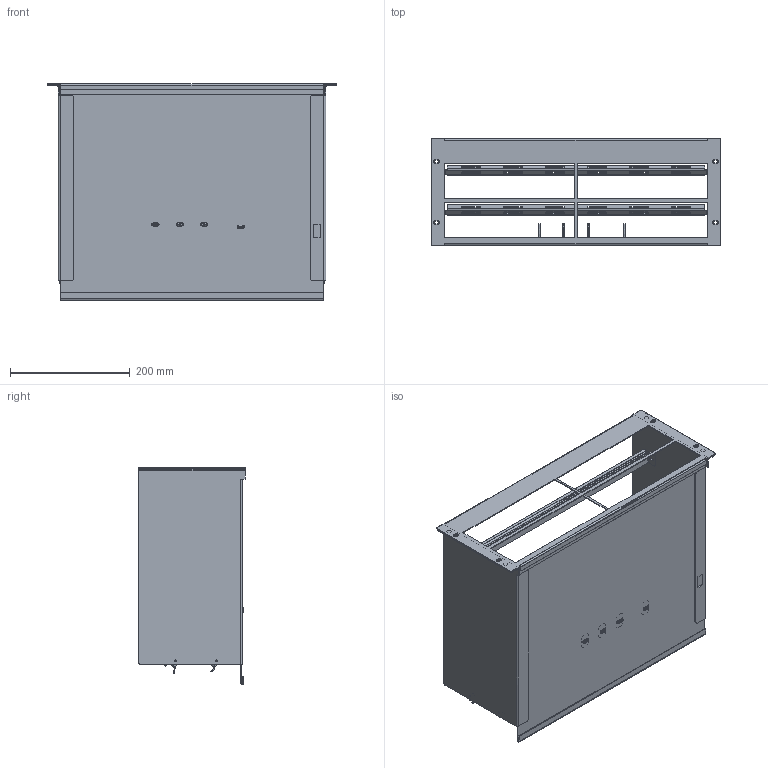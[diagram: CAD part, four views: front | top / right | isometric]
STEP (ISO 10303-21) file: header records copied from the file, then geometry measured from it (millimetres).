
FILE_DESCRIPTION((''),'2;1');
FILE_NAME('RSHA-SONOS-AMP4_ASM','2019-01-28T',('tpesso1a'),('Middle Atlantic Products'),'PRO/ENGINEER BY PARAMETRIC TECHNOLOGY CORPORATION, 2014310','PRO/ENGINEER BY PARAMETRIC TECHNOLOGY CORPORATION, 2014310','');
FILE_SCHEMA(('CONFIG_CONTROL_DESIGN'));
Length unit declared in the file: inch
Products named in the file (10): PRSHPB14; PRSHPLE4U2; PRSHPRE4U2; PRSHAF4U; PRSHLH1; 800-00183; PRSH4XCBK; 500-00435_17; ARSH4XCBK_ASM; RSHA-SONOS-AMP4_ASM
Assembly tree (14 placements, depth 3):
  RSHA-SONOS-AMP4_ASM
    PRSHPB14
    PRSHPLE4U2
    PRSHPRE4U2
    PRSHAF4U
    PRSHLH1  x2
    800-00183  x4
    ARSH4XCBK_ASM  x2
      PRSH4XCBK
      500-00435_17
Bounding box: 482.6 x 177.55 x 361.15 mm (x, y, z)
Volume: 720898.2 mm3; surface area: 866432.2 mm2
Topology: 18 solids, 18 shells, 1758 faces, 4278 edges, 2564 vertices
Faces by surface type: cylinder 759, plane 515, torus 360, bspline 100, sphere 16, cone 8
Entity records: 22548 total; most frequent: CARTESIAN_POINT 5287, DIRECTION 3728, ORIENTED_EDGE 3464, EDGE_CURVE 1732, AXIS2_PLACEMENT_3D 1386, VERTEX_POINT 1054, VECTOR 956, LINE 956
